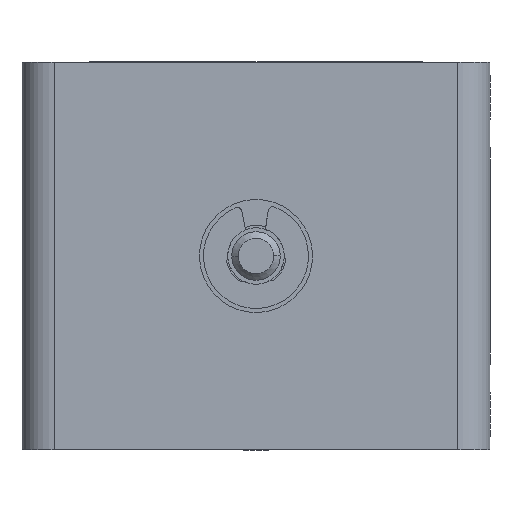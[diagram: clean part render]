
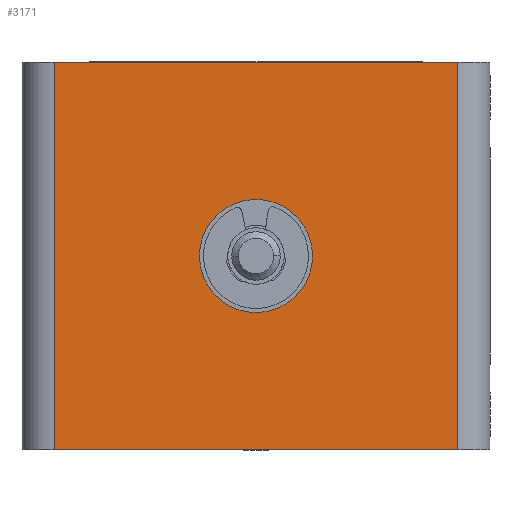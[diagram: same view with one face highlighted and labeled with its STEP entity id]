
A CAD part, front view. The second image highlights one B-rep face of the part: STEP entity #3171.
In plain terms, the highlighted planar face has unit normal (0, -1, 0).
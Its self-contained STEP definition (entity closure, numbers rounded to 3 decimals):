
#31 = AXIS2_PLACEMENT_3D ( 'NONE', #8305, #3647, #9077 ) ;
#280 = PLANE ( 'NONE',  #2185 ) ;
#576 = CARTESIAN_POINT ( 'NONE',  ( -12.5, -26.9, 0. ) ) ;
#582 = FACE_OUTER_BOUND ( 'NONE', #2377, .T. ) ;
#1066 = DIRECTION ( 'NONE',  ( 0., 0., 1. ) ) ;
#1118 = DIRECTION ( 'NONE',  ( 0., -1., 0. ) ) ;
#1512 = ORIENTED_EDGE ( 'NONE', *, *, #9352, .F. ) ;
#1692 = EDGE_CURVE ( 'NONE', #4566, #3438, #8367, .T. ) ;
#1708 = CARTESIAN_POINT ( 'NONE',  ( 12.5, -26.9, 0. ) ) ;
#2169 = CARTESIAN_POINT ( 'NONE',  ( 0., -26.9, 0. ) ) ;
#2180 = LINE ( 'NONE', #2169, #7893 ) ;
#2185 = AXIS2_PLACEMENT_3D ( 'NONE', #8009, #5709, #1066 ) ;
#2377 = EDGE_LOOP ( 'NONE', ( #3362, #8838, #6863, #9429 ) ) ;
#2627 = VERTEX_POINT ( 'NONE', #8557 ) ;
#2644 = CARTESIAN_POINT ( 'NONE',  ( 12.5, -26.9, -24. ) ) ;
#2800 = CARTESIAN_POINT ( 'NONE',  ( 0., -26.9, -15. ) ) ;
#3148 = LINE ( 'NONE', #8994, #5222 ) ;
#3171 = ADVANCED_FACE ( 'NONE', ( #4964, #582 ), #280, .F. ) ;
#3362 = ORIENTED_EDGE ( 'NONE', *, *, #1692, .T. ) ;
#3438 = VERTEX_POINT ( 'NONE', #2644 ) ;
#3647 = DIRECTION ( 'NONE',  ( 0., -1., 0. ) ) ;
#3716 = EDGE_CURVE ( 'NONE', #6722, #4566, #5914, .T. ) ;
#3748 = VECTOR ( 'NONE', #5523, 1000. ) ;
#4479 = ORIENTED_EDGE ( 'NONE', *, *, #10048, .F. ) ;
#4566 = VERTEX_POINT ( 'NONE', #8347 ) ;
#4957 = VERTEX_POINT ( 'NONE', #2800 ) ;
#4964 = FACE_BOUND ( 'NONE', #5666, .T. ) ;
#5138 = EDGE_CURVE ( 'NONE', #6125, #6722, #2180, .T. ) ;
#5222 = VECTOR ( 'NONE', #9772, 1000. ) ;
#5523 = DIRECTION ( 'NONE',  ( 1., 0., 0. ) ) ;
#5666 = EDGE_LOOP ( 'NONE', ( #4479, #1512 ) ) ;
#5709 = DIRECTION ( 'NONE',  ( 0., 1., 0. ) ) ;
#5755 = CARTESIAN_POINT ( 'NONE',  ( 0., -26.9, -12. ) ) ;
#5914 = LINE ( 'NONE', #6184, #10039 ) ;
#6125 = VERTEX_POINT ( 'NONE', #1708 ) ;
#6144 = CIRCLE ( 'NONE', #8177, 3. ) ;
#6184 = CARTESIAN_POINT ( 'NONE',  ( -12.5, -26.9, -12. ) ) ;
#6534 = DIRECTION ( 'NONE',  ( 0., 0., 1. ) ) ;
#6674 = CIRCLE ( 'NONE', #31, 3. ) ;
#6722 = VERTEX_POINT ( 'NONE', #576 ) ;
#6863 = ORIENTED_EDGE ( 'NONE', *, *, #5138, .T. ) ;
#6967 = DIRECTION ( 'NONE',  ( 0., 0., -1. ) ) ;
#7893 = VECTOR ( 'NONE', #9902, 1000. ) ;
#8009 = CARTESIAN_POINT ( 'NONE',  ( -12.5, -26.9, -24. ) ) ;
#8177 = AXIS2_PLACEMENT_3D ( 'NONE', #5755, #1118, #6534 ) ;
#8305 = CARTESIAN_POINT ( 'NONE',  ( 0., -26.9, -12. ) ) ;
#8347 = CARTESIAN_POINT ( 'NONE',  ( -12.5, -26.9, -24. ) ) ;
#8367 = LINE ( 'NONE', #8607, #3748 ) ;
#8557 = CARTESIAN_POINT ( 'NONE',  ( 0., -26.9, -9. ) ) ;
#8607 = CARTESIAN_POINT ( 'NONE',  ( 0., -26.9, -24. ) ) ;
#8838 = ORIENTED_EDGE ( 'NONE', *, *, #8840, .F. ) ;
#8840 = EDGE_CURVE ( 'NONE', #6125, #3438, #3148, .T. ) ;
#8994 = CARTESIAN_POINT ( 'NONE',  ( 12.5, -26.9, -12. ) ) ;
#9077 = DIRECTION ( 'NONE',  ( 0., 0., 1. ) ) ;
#9352 = EDGE_CURVE ( 'NONE', #4957, #2627, #6674, .T. ) ;
#9429 = ORIENTED_EDGE ( 'NONE', *, *, #3716, .T. ) ;
#9772 = DIRECTION ( 'NONE',  ( 0., 0., -1. ) ) ;
#9902 = DIRECTION ( 'NONE',  ( -1., 0., 0. ) ) ;
#10039 = VECTOR ( 'NONE', #6967, 1000. ) ;
#10048 = EDGE_CURVE ( 'NONE', #2627, #4957, #6144, .T. ) ;
